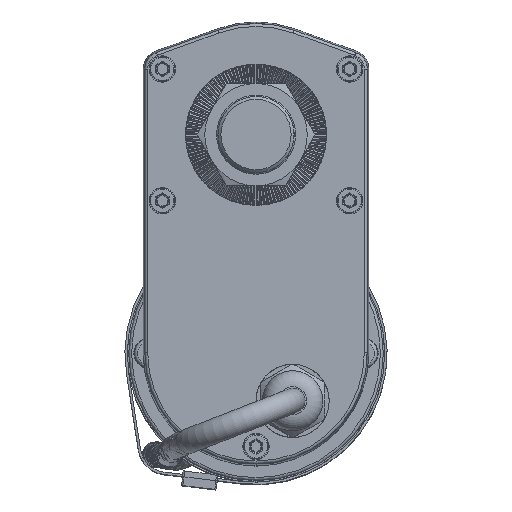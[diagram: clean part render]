
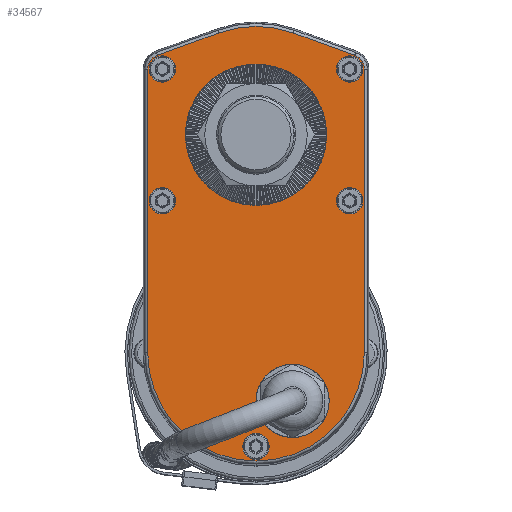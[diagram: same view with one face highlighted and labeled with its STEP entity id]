
A CAD part, top view. The second image highlights one B-rep face of the part: STEP entity #34567.
In plain terms, the highlighted planar face has unit normal (0, 0, 1).
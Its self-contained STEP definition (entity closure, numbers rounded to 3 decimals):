
#213 = DIRECTION ( 'NONE',  ( 0., 0., 1. ) ) ;
#783 = DIRECTION ( 'NONE',  ( 1., 0., 0. ) ) ;
#819 = CARTESIAN_POINT ( 'NONE',  ( 12.586, 34.812, 40. ) ) ;
#833 = EDGE_CURVE ( 'NONE', #15539, #1201, #23985, .T. ) ;
#1010 = VERTEX_POINT ( 'NONE', #23759 ) ;
#1201 = VERTEX_POINT ( 'NONE', #16075 ) ;
#1223 = AXIS2_PLACEMENT_3D ( 'NONE', #9270, #30707, #12358 ) ;
#1783 = DIRECTION ( 'NONE',  ( -1., 0., 0. ) ) ;
#1913 = CARTESIAN_POINT ( 'NONE',  ( -31.995, 22.46, 40. ) ) ;
#2403 = ORIENTED_EDGE ( 'NONE', *, *, #35870, .F. ) ;
#2416 = CARTESIAN_POINT ( 'NONE',  ( 37.012, 22.46, 40. ) ) ;
#2426 = LINE ( 'NONE', #24024, #34033 ) ;
#2904 = DIRECTION ( 'NONE',  ( -0.94, -0.34, 0. ) ) ;
#3742 = DIRECTION ( 'NONE',  ( 0., 0., 1. ) ) ;
#4159 = VERTEX_POINT ( 'NONE', #5953 ) ;
#4452 = DIRECTION ( 'NONE',  ( 0., 0., 1. ) ) ;
#4908 = FACE_BOUND ( 'NONE', #25393, .T. ) ;
#4931 = CARTESIAN_POINT ( 'NONE',  ( 37.012, 22.46, 40. ) ) ;
#5333 = AXIS2_PLACEMENT_3D ( 'NONE', #11076, #32476, #14166 ) ;
#5800 = CARTESIAN_POINT ( 'NONE',  ( -24.1, 0., 40. ) ) ;
#5886 = FACE_OUTER_BOUND ( 'NONE', #22327, .T. ) ;
#5906 = EDGE_CURVE ( 'NONE', #30522, #30522, #30292, .T. ) ;
#5953 = CARTESIAN_POINT ( 'NONE',  ( -27.5, -22.54, 40. ) ) ;
#5976 = VERTEX_POINT ( 'NONE', #26109 ) ;
#6573 = CIRCLE ( 'NONE', #38141, 11. ) ;
#6735 = VERTEX_POINT ( 'NONE', #38167 ) ;
#6989 = CARTESIAN_POINT ( 'NONE',  ( -32., 22.46, 40. ) ) ;
#7112 = ORIENTED_EDGE ( 'NONE', *, *, #19106, .F. ) ;
#7121 = EDGE_LOOP ( 'NONE', ( #2403 ) ) ;
#7275 = AXIS2_PLACEMENT_3D ( 'NONE', #17492, #38960, #20624 ) ;
#7454 = AXIS2_PLACEMENT_3D ( 'NONE', #1913, #4452, #1783 ) ;
#7993 = ORIENTED_EDGE ( 'NONE', *, *, #13072, .T. ) ;
#8051 = EDGE_LOOP ( 'NONE', ( #7112 ) ) ;
#9065 = DIRECTION ( 'NONE',  ( 0., -1., 0. ) ) ;
#9265 = ORIENTED_EDGE ( 'NONE', *, *, #34929, .T. ) ;
#9270 = CARTESIAN_POINT ( 'NONE',  ( 32., 22.46, 40. ) ) ;
#9283 = CARTESIAN_POINT ( 'NONE',  ( 4.5, -106.54, 40. ) ) ;
#9474 = DIRECTION ( 'NONE',  ( 0., 0., 1. ) ) ;
#10055 = DIRECTION ( 'NONE',  ( 1., 0., 0. ) ) ;
#10363 = CIRCLE ( 'NONE', #7275, 4.5 ) ;
#10964 = EDGE_CURVE ( 'NONE', #12510, #6735, #37935, .T. ) ;
#11076 = CARTESIAN_POINT ( 'NONE',  ( 31.995, 22.46, 40. ) ) ;
#11307 = EDGE_CURVE ( 'NONE', #4159, #4159, #23062, .T. ) ;
#11348 = CARTESIAN_POINT ( 'NONE',  ( 0., 0., 40. ) ) ;
#11600 = CIRCLE ( 'NONE', #33623, 37.012 ) ;
#11850 = EDGE_LOOP ( 'NONE', ( #27836 ) ) ;
#12123 = FACE_BOUND ( 'NONE', #7121, .T. ) ;
#12220 = CIRCLE ( 'NONE', #22372, 37.017 ) ;
#12309 = VECTOR ( 'NONE', #38694, 1000. ) ;
#12358 = DIRECTION ( 'NONE',  ( -1., 0., 0. ) ) ;
#12510 = VERTEX_POINT ( 'NONE', #2416 ) ;
#12638 = CARTESIAN_POINT ( 'NONE',  ( 27.5, 22.46, 40. ) ) ;
#12719 = ORIENTED_EDGE ( 'NONE', *, *, #32497, .F. ) ;
#12740 = VERTEX_POINT ( 'NONE', #819 ) ;
#13072 = EDGE_CURVE ( 'NONE', #28069, #15539, #36912, .T. ) ;
#14166 = DIRECTION ( 'NONE',  ( -1., 0., 0. ) ) ;
#14183 = CARTESIAN_POINT ( 'NONE',  ( 32., -22.54, 40. ) ) ;
#14231 = EDGE_LOOP ( 'NONE', ( #12719 ) ) ;
#14676 = VERTEX_POINT ( 'NONE', #9283 ) ;
#15539 = VERTEX_POINT ( 'NONE', #21433 ) ;
#15564 = ORIENTED_EDGE ( 'NONE', *, *, #5906, .F. ) ;
#15583 = CARTESIAN_POINT ( 'NONE',  ( 1.5, -90.966, 40. ) ) ;
#16075 = CARTESIAN_POINT ( 'NONE',  ( -37.012, 22.46, 40. ) ) ;
#16792 = CARTESIAN_POINT ( 'NONE',  ( 0., -74.495, 40. ) ) ;
#16830 = ORIENTED_EDGE ( 'NONE', *, *, #27242, .F. ) ;
#17229 = DIRECTION ( 'NONE',  ( -1., 0., 0. ) ) ;
#17241 = ORIENTED_EDGE ( 'NONE', *, *, #29355, .T. ) ;
#17492 = CARTESIAN_POINT ( 'NONE',  ( 0., -106.54, 40. ) ) ;
#18022 = CARTESIAN_POINT ( 'NONE',  ( -12.586, 34.812, 40. ) ) ;
#18510 = CARTESIAN_POINT ( 'NONE',  ( 12.5, -90.966, 40. ) ) ;
#19067 = DIRECTION ( 'NONE',  ( 0., 0., 1. ) ) ;
#19092 = EDGE_LOOP ( 'NONE', ( #31680 ) ) ;
#19106 = EDGE_CURVE ( 'NONE', #22836, #22836, #20460, .T. ) ;
#19123 = EDGE_CURVE ( 'NONE', #5976, #12510, #27634, .T. ) ;
#19190 = EDGE_CURVE ( 'NONE', #14676, #14676, #10363, .T. ) ;
#19206 = CIRCLE ( 'NONE', #21645, 4.5 ) ;
#19892 = DIRECTION ( 'NONE',  ( -1., 0., 0. ) ) ;
#20270 = FACE_BOUND ( 'NONE', #19092, .T. ) ;
#20460 = CIRCLE ( 'NONE', #34713, 4.5 ) ;
#20618 = DIRECTION ( 'NONE',  ( -1., 0., 0. ) ) ;
#20624 = DIRECTION ( 'NONE',  ( 1., 0., 0. ) ) ;
#20891 = CIRCLE ( 'NONE', #1223, 4.5 ) ;
#21155 = EDGE_LOOP ( 'NONE', ( #15564 ) ) ;
#21289 = CARTESIAN_POINT ( 'NONE',  ( -33.701, 27.179, 40. ) ) ;
#21433 = CARTESIAN_POINT ( 'NONE',  ( -33.701, 27.179, 40. ) ) ;
#21614 = DIRECTION ( 'NONE',  ( -1., 0., 0. ) ) ;
#21627 = ORIENTED_EDGE ( 'NONE', *, *, #29439, .T. ) ;
#21645 = AXIS2_PLACEMENT_3D ( 'NONE', #6989, #28436, #10055 ) ;
#22111 = CARTESIAN_POINT ( 'NONE',  ( 0., 0., 40. ) ) ;
#22327 = EDGE_LOOP ( 'NONE', ( #17241, #9265, #37507, #34199, #37423, #21627, #7993, #28018 ) ) ;
#22372 = AXIS2_PLACEMENT_3D ( 'NONE', #27839, #9474, #30929 ) ;
#22836 = VERTEX_POINT ( 'NONE', #27630 ) ;
#23062 = CIRCLE ( 'NONE', #29207, 4.5 ) ;
#23314 = VERTEX_POINT ( 'NONE', #28028 ) ;
#23759 = CARTESIAN_POINT ( 'NONE',  ( -37.012, -74.495, 40. ) ) ;
#23985 = CIRCLE ( 'NONE', #7454, 5.017 ) ;
#24024 = CARTESIAN_POINT ( 'NONE',  ( 12.586, 34.812, 40. ) ) ;
#24171 = DIRECTION ( 'NONE',  ( -0.94, 0.34, 0. ) ) ;
#25188 = DIRECTION ( 'NONE',  ( -1., 0., 0. ) ) ;
#25220 = VERTEX_POINT ( 'NONE', #12638 ) ;
#25393 = EDGE_LOOP ( 'NONE', ( #16830 ) ) ;
#26109 = CARTESIAN_POINT ( 'NONE',  ( 37.012, -74.495, 40. ) ) ;
#27242 = EDGE_CURVE ( 'NONE', #35265, #35265, #6573, .T. ) ;
#27630 = CARTESIAN_POINT ( 'NONE',  ( 27.5, -22.54, 40. ) ) ;
#27634 = LINE ( 'NONE', #4931, #12309 ) ;
#27836 = ORIENTED_EDGE ( 'NONE', *, *, #19190, .F. ) ;
#27839 = CARTESIAN_POINT ( 'NONE',  ( 0., 0., 40. ) ) ;
#28018 = ORIENTED_EDGE ( 'NONE', *, *, #833, .T. ) ;
#28028 = CARTESIAN_POINT ( 'NONE',  ( -27.5, 22.46, 40. ) ) ;
#28069 = VERTEX_POINT ( 'NONE', #18022 ) ;
#28407 = FACE_BOUND ( 'NONE', #11850, .T. ) ;
#28436 = DIRECTION ( 'NONE',  ( 0., 0., 1. ) ) ;
#29021 = AXIS2_PLACEMENT_3D ( 'NONE', #11348, #38953, #20618 ) ;
#29207 = AXIS2_PLACEMENT_3D ( 'NONE', #37437, #19067, #783 ) ;
#29355 = EDGE_CURVE ( 'NONE', #1201, #1010, #31386, .T. ) ;
#29356 = FACE_BOUND ( 'NONE', #14231, .T. ) ;
#29439 = EDGE_CURVE ( 'NONE', #12740, #28069, #12220, .T. ) ;
#29708 = VECTOR ( 'NONE', #2904, 1000. ) ;
#30292 = CIRCLE ( 'NONE', #38168, 24.1 ) ;
#30425 = VECTOR ( 'NONE', #9065, 1000. ) ;
#30522 = VERTEX_POINT ( 'NONE', #5800 ) ;
#30525 = CARTESIAN_POINT ( 'NONE',  ( -37.012, -74.495, 40. ) ) ;
#30707 = DIRECTION ( 'NONE',  ( 0., 0., 1. ) ) ;
#30929 = DIRECTION ( 'NONE',  ( -1., 0., 0. ) ) ;
#31284 = FACE_BOUND ( 'NONE', #21155, .T. ) ;
#31386 = LINE ( 'NONE', #30525, #30425 ) ;
#31680 = ORIENTED_EDGE ( 'NONE', *, *, #11307, .F. ) ;
#32476 = DIRECTION ( 'NONE',  ( 0., 0., 1. ) ) ;
#32497 = EDGE_CURVE ( 'NONE', #25220, #25220, #20891, .T. ) ;
#33623 = AXIS2_PLACEMENT_3D ( 'NONE', #16792, #38239, #19892 ) ;
#34033 = VECTOR ( 'NONE', #24171, 1000. ) ;
#34199 = ORIENTED_EDGE ( 'NONE', *, *, #10964, .T. ) ;
#34567 = ADVANCED_FACE ( 'NONE', ( #4908, #5886, #31284, #29356, #36558, #28407, #20270, #12123 ), #38805, .F. ) ;
#34713 = AXIS2_PLACEMENT_3D ( 'NONE', #14183, #35594, #17229 ) ;
#34929 = EDGE_CURVE ( 'NONE', #1010, #5976, #11600, .T. ) ;
#35265 = VERTEX_POINT ( 'NONE', #15583 ) ;
#35594 = DIRECTION ( 'NONE',  ( 0., 0., 1. ) ) ;
#35870 = EDGE_CURVE ( 'NONE', #23314, #23314, #19206, .T. ) ;
#36558 = FACE_BOUND ( 'NONE', #8051, .T. ) ;
#36912 = LINE ( 'NONE', #21289, #29708 ) ;
#37055 = EDGE_CURVE ( 'NONE', #6735, #12740, #2426, .T. ) ;
#37423 = ORIENTED_EDGE ( 'NONE', *, *, #37055, .T. ) ;
#37437 = CARTESIAN_POINT ( 'NONE',  ( -32., -22.54, 40. ) ) ;
#37507 = ORIENTED_EDGE ( 'NONE', *, *, #19123, .T. ) ;
#37935 = CIRCLE ( 'NONE', #5333, 5.017 ) ;
#38141 = AXIS2_PLACEMENT_3D ( 'NONE', #18510, #213, #21614 ) ;
#38167 = CARTESIAN_POINT ( 'NONE',  ( 33.701, 27.179, 40. ) ) ;
#38168 = AXIS2_PLACEMENT_3D ( 'NONE', #22111, #3742, #25188 ) ;
#38239 = DIRECTION ( 'NONE',  ( 0., 0., 1. ) ) ;
#38694 = DIRECTION ( 'NONE',  ( 0., 1., 0. ) ) ;
#38805 = PLANE ( 'NONE',  #29021 ) ;
#38953 = DIRECTION ( 'NONE',  ( 0., 0., -1. ) ) ;
#38960 = DIRECTION ( 'NONE',  ( 0., 0., 1. ) ) ;
